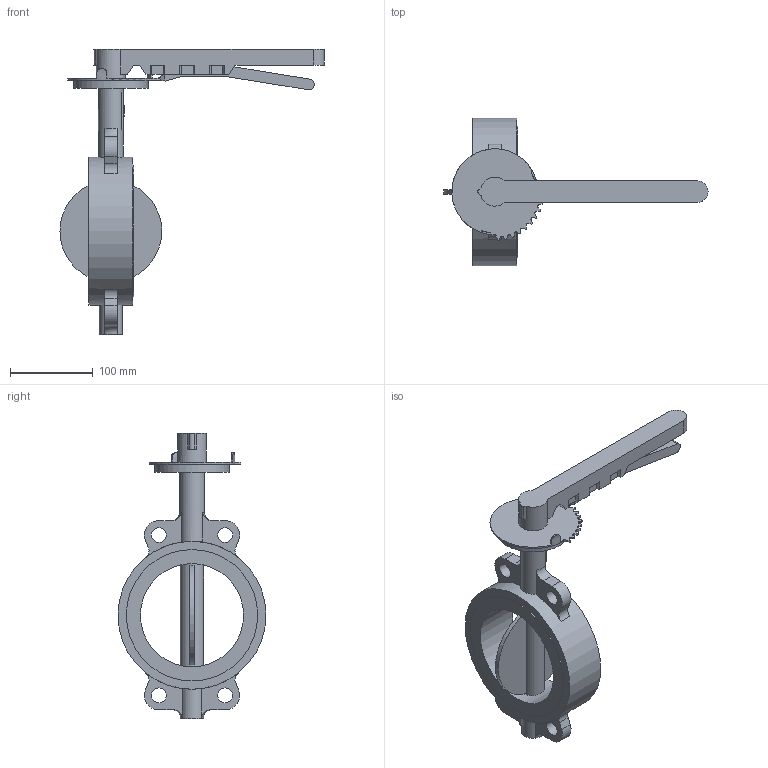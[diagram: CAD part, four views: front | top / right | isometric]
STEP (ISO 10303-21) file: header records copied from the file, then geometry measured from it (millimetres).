
FILE_DESCRIPTION(('STEP AP203'), '1');
FILE_NAME('Çàòâîð 017W.Y_DN125_ðóêîÿòü', '', ('UNSPECIFIED'), ('UNSPECIFIED'), 'ASCON STEP Converter 1.6', 'ASCON Math Kernel', '');
FILE_SCHEMA(('CONFIG_CONTROL_DESIGN'));
Length unit declared in the file: millimetre
Bounding box: 319.65 x 179 x 345 mm (x, y, z)
Volume: 1245733.3 mm3; surface area: 185701.9 mm2
Topology: 1 solids, 1 shells, 202 faces, 548 edges, 362 vertices
Faces by surface type: plane 131, cylinder 67, torus 4
Full cylindrical faces by diameter (mm): 10 x4, 18 x4, 28 x2, 30 x1, 35 x1, 90 x1, 125 x1, 159 x2, 179 x1
Entity records: 9512 total; most frequent: CARTESIAN_POINT 2722, ORIENTED_EDGE 1062, DIRECTION 1055, EDGE_CURVE 531, VERTEX_POINT 362, AXIS2_PLACEMENT_3D 355, LINE 345, VECTOR 345
